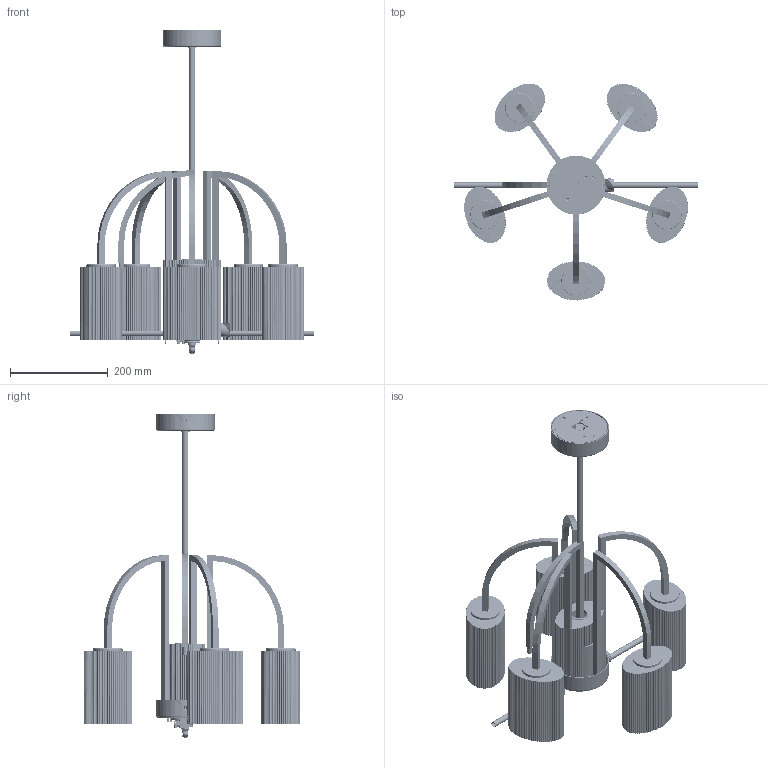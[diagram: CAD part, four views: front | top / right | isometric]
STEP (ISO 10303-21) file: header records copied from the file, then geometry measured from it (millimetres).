
FILE_DESCRIPTION( ( 'Unknown' ), '1' );
FILE_NAME( '//MMS001/Pubblica/PROGETTI MM LAMPADARI/7413 SERIE OVAL/STUDIO/LAMPADARIO 5 LUCI/7413MP0TR.stp', 'Unknown', ( 'Unknown' ), ( 'Unknown' ), 'XStep 1.0', 'Unknown', ' ' );
FILE_SCHEMA( ( 'automotive_design' ) );
Length unit declared in the file: millimetre
Products named in the file (34): Assem1; Assem2; Assem3; Assem4; Assem5; 400104025 TUBETTO FILETTATO D9,5 L=25; 7413C001 BRACCIO 5 LUCI; 400104015 TUBETTO FILETTATO D9,5 L=15; 400107369 GRANO M4X10 MM CPUNTA; CPE14; CM600; 400125058 ROSONE CIRCOLARE; 400110547 GOMMINO ROSONE; 400125059 STAFFA A SOFFITTO; 400240202 MORSETTIERA 3 POLI; 7413C002 CILINDRO CENTRALE 5 LUCI; 7413C004 DISCO CHIUSURA CENTRALE 5 LUCI; 400109001 RONDELLA DENTATA M10; 400108502 DADO M10x1; 400101014 TUBO D.12X1,2 FIL.INT.10X1 2P L.500; 400240424 PASSAFILO NEUTRO; 400105437 RAC.FE ES.17X21 M10X1 FTR.10,2 ZIN; 400104085 TUBETTO FILETTATO D9,5 L=85; 7413C009 DISCO CHIUSURA CENTRALE; 400105539 PARTICOL.TORNITO FE D.20X10 MM FM4; 400104020 TUBETTO FILETTATO D9,5 L=20; 400123060 CENTRATUBO FE D 60X5; 7413C003 VETRO; 7415C070 GHIERA; LAMPADINA E14 OSRAM; 400125061 OMEGA SU STAFFA; 400109123 RONDELLA DENTATA M4; 400108514 DADO M4; 4001M412S VITE TESTA SVASATA M4X12
Bounding box: 500 x 444.58 x 665 mm (x, y, z)
Volume: 2055336.4 mm3; surface area: 1809742.8 mm2
Topology: 144 solids, 144 shells, 5481 faces, 14618 edges, 9529 vertices
Faces by surface type: plane 2925, cylinder 1421, extrusion 444, torus 322, cone 207, bspline 120, sphere 42
Full cylindrical faces by diameter (mm): 1.567 x7, 2 x7, 3 x25, 3.242 x18, 4 x25, 4.5 x24, 5 x13, 5.5 x24, 6 x11, 7 x7, 8 x24, 8.5 x3, 8.917 x33, 9.6 x2, 10 x28, 10.25 x40, 11 x7, 12 x5, 13.044 x36, 14 x13, 15 x3, 16 x7, 16.211 x6, 18 x6, 18.985 x6, 20 x9, 22.5 x35, 28 x13, 32 x6, 58 x6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
Entity records: 39155 total; most frequent: CARTESIAN_POINT 13875, DIRECTION 5065, ORIENTED_EDGE 4898, EDGE_CURVE 2449, AXIS2_PLACEMENT_3D 1865, VERTEX_POINT 1693, EDGE_LOOP 1352, VECTOR 1335
